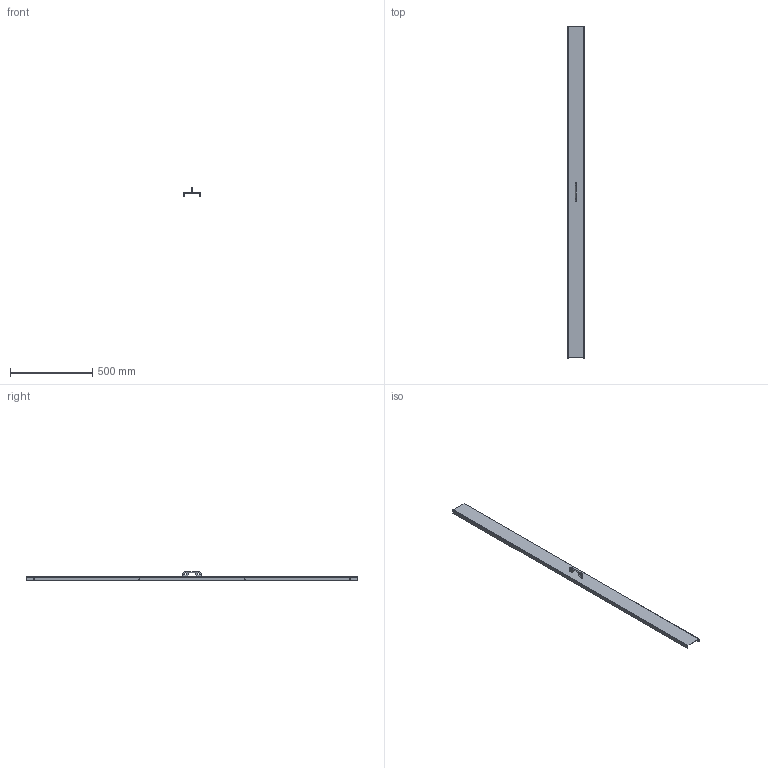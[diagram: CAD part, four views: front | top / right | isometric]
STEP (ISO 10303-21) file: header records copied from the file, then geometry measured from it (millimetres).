
FILE_DESCRIPTION((''),'1');
FILE_NAME('18','2001-04-18T',('jlue'),(''),'PRO/ENGINEER BY PARAMETRIC TECHNOLOGY CORPORATION, 9846','PRO/ENGINEER BY PARAMETRIC TECHNOLOGY CORPORATION, 9846','');
FILE_SCHEMA(('CONFIG_CONTROL_DESIGN'));
Length unit declared in the file: millimetre
Products named in the file (1): 18
Bounding box: 100.08 x 2015.49 x 54.1 mm (x, y, z)
Surface area: 575547.8 mm2 (no closed solid volume)
Topology: 0 solids, 0 shells, 40 faces, 224 edges, 224 vertices
Faces by surface type: cylinder 26, plane 10, torus 4
Entity records: 1166 total; most frequent: DIRECTION 238, COMPOSITE_CURVE_SEGMENT 212, CARTESIAN_POINT 172, TRIMMED_CURVE 106, AXIS2_PLACEMENT_3D 92, VECTOR 54, LINE 54, CIRCLE 52
